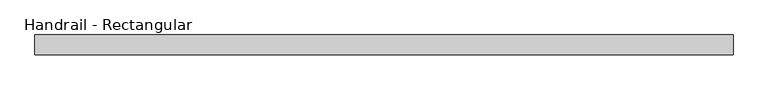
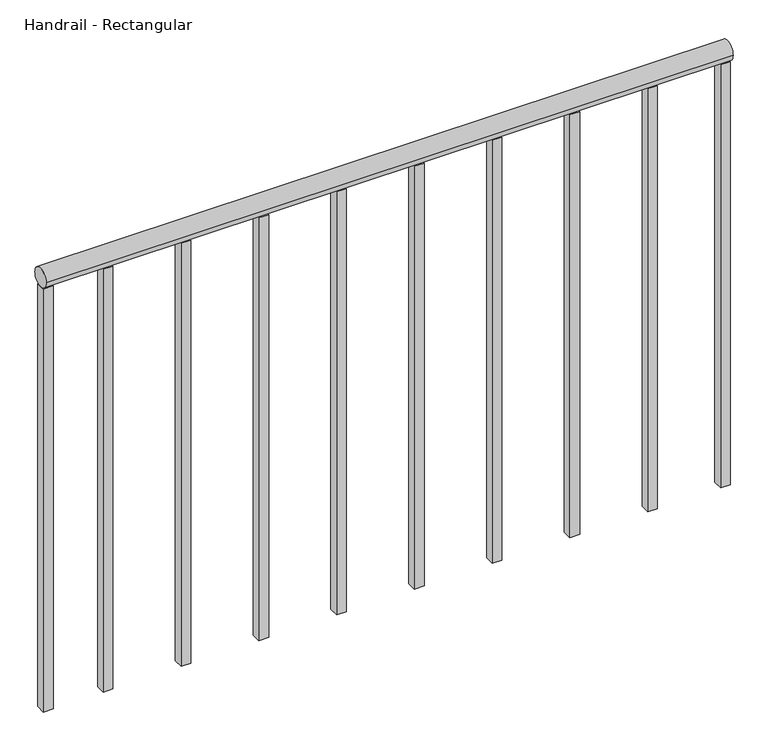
"""IFC4 building model written with IfcOpenShell, lengths in millimetres: railing geometry, Handrail - Rectangular."""

from ifc_helpers import new_model, si_unit, point, frame, frame_2d, origin, place, context, project, spatial, polyline, circle_curve, trimmed, segment, composite_curve, outline, extrude, source, transform, mapped, element, save


def handrail_rectangular_53c340ba(model_context):
    return source(origin(), model_context, "Body", "SweptSolid", [
        extrude(outline(composite_curve([segment(trimmed(circle_curve(frame_2d((-35553.1683133, 10039.35)), 19.05), [point((-35572.2183133, 10039.35))], [point((-35534.1183133, 10039.35))], False, "CARTESIAN"), True, "CONTINUOUS"), segment(trimmed(circle_curve(frame_2d((-35553.1683133, 10039.35)), 19.05), [point((-35534.1183133, 10039.35))], [point((-35572.2183133, 10039.35))], False, "CARTESIAN"), True, "CONTINUOUS")], self_intersect=False)), frame((-25550.7839563, 0.0, 0.0), z_axis=(1.0, 0.0, 0.0), x_axis=(0.0, 1.0, 0.0)), (0.0, 0.0, 1.0), 1346.2),
        extrude(outline(polyline([(-25414.2589563, -35543.6433133), (-25414.2589563, -35562.6933133), (-25433.3089563, -35562.6933133), (-25433.3089563, -35543.6433133), (-25414.2589563, -35543.6433133)])), frame((0.0, 0.0, 9144.0), z_axis=(0.0, 0.0, 1.0), x_axis=(1.0, 0.0, 0.0)), (0.0, 0.0, 1.0), 876.3),
        extrude(outline(polyline([(-25261.8589563, -35543.6433133), (-25261.8589563, -35562.6933133), (-25280.9089563, -35562.6933133), (-25280.9089563, -35543.6433133), (-25261.8589563, -35543.6433133)])), frame((0.0, 0.0, 9144.0), z_axis=(0.0, 0.0, 1.0), x_axis=(1.0, 0.0, 0.0)), (0.0, 0.0, 1.0), 876.3),
        extrude(outline(polyline([(-25109.4589563, -35543.6433133), (-25109.4589563, -35562.6933133), (-25128.5089563, -35562.6933133), (-25128.5089563, -35543.6433133), (-25109.4589563, -35543.6433133)])), frame((0.0, 0.0, 9144.0), z_axis=(0.0, 0.0, 1.0), x_axis=(1.0, 0.0, 0.0)), (0.0, 0.0, 1.0), 876.3),
        extrude(outline(polyline([(-24957.0589563, -35543.6433133), (-24957.0589563, -35562.6933133), (-24976.1089563, -35562.6933133), (-24976.1089563, -35543.6433133), (-24957.0589563, -35543.6433133)])), frame((0.0, 0.0, 9144.0), z_axis=(0.0, 0.0, 1.0), x_axis=(1.0, 0.0, 0.0)), (0.0, 0.0, 1.0), 876.3),
        extrude(outline(polyline([(-24804.6589563, -35543.6433133), (-24804.6589563, -35562.6933133), (-24823.7089563, -35562.6933133), (-24823.7089563, -35543.6433133), (-24804.6589563, -35543.6433133)])), frame((0.0, 0.0, 9144.0), z_axis=(0.0, 0.0, 1.0), x_axis=(1.0, 0.0, 0.0)), (0.0, 0.0, 1.0), 876.3),
        extrude(outline(polyline([(-24652.2589563, -35543.6433133), (-24652.2589563, -35562.6933133), (-24671.3089563, -35562.6933133), (-24671.3089563, -35543.6433133), (-24652.2589563, -35543.6433133)])), frame((0.0, 0.0, 9144.0), z_axis=(0.0, 0.0, 1.0), x_axis=(1.0, 0.0, 0.0)), (0.0, 0.0, 1.0), 876.3),
        extrude(outline(polyline([(-24499.8589563, -35543.6433133), (-24499.8589563, -35562.6933133), (-24518.9089563, -35562.6933133), (-24518.9089563, -35543.6433133), (-24499.8589563, -35543.6433133)])), frame((0.0, 0.0, 9144.0), z_axis=(0.0, 0.0, 1.0), x_axis=(1.0, 0.0, 0.0)), (0.0, 0.0, 1.0), 876.3),
        extrude(outline(polyline([(-24347.4589563, -35543.6433133), (-24347.4589563, -35562.6933133), (-24366.5089563, -35562.6933133), (-24366.5089563, -35543.6433133), (-24347.4589563, -35543.6433133)])), frame((0.0, 0.0, 9144.0), z_axis=(0.0, 0.0, 1.0), x_axis=(1.0, 0.0, 0.0)), (0.0, 0.0, 1.0), 876.3),
        extrude(outline(polyline([(-25531.7339563, -35543.6433133), (-25531.7339563, -35562.6933133), (-25550.7839563, -35562.6933133), (-25550.7839563, -35543.6433133), (-25531.7339563, -35543.6433133)])), frame((0.0, 0.0, 9144.0), z_axis=(0.0, 0.0, 1.0), x_axis=(1.0, 0.0, 0.0)), (0.0, 0.0, 1.0), 876.3),
        extrude(outline(polyline([(-24204.5839563, -35543.6433133), (-24204.5839563, -35562.6933133), (-24223.6339563, -35562.6933133), (-24223.6339563, -35543.6433133), (-24204.5839563, -35543.6433133)])), frame((0.0, 0.0, 9144.0), z_axis=(0.0, 0.0, 1.0), x_axis=(1.0, 0.0, 0.0)), (0.0, 0.0, 1.0), 876.3),
    ])


if __name__ == "__main__":
    model = new_model("IFC4")
    model_context = context("Model", 3, world=origin())
    ifc_project = project(units=[si_unit("LENGTHUNIT", "METRE", prefix="MILLI")], contexts=[model_context])
    site = spatial("IfcSite", under=ifc_project)
    building = spatial("IfcBuilding", under=site)
    placement = place(None, origin())
    handrail_rectangular_shape = handrail_rectangular_53c340ba(model_context)
    element("IfcRailing", 1, ObjectType="Handrail - Rectangular", at=placement, inside=building, context=model_context, shape_type="MappedRepresentation", body=[
        mapped(handrail_rectangular_shape, transform((0.0, 0.0, 0.0), x_axis=(1.0, 0.0, 0.0), y_axis=(0.0, 1.0, 0.0), z_axis=(0.0, 0.0, 1.0))),
    ])
    save(model, "model.ifc")
